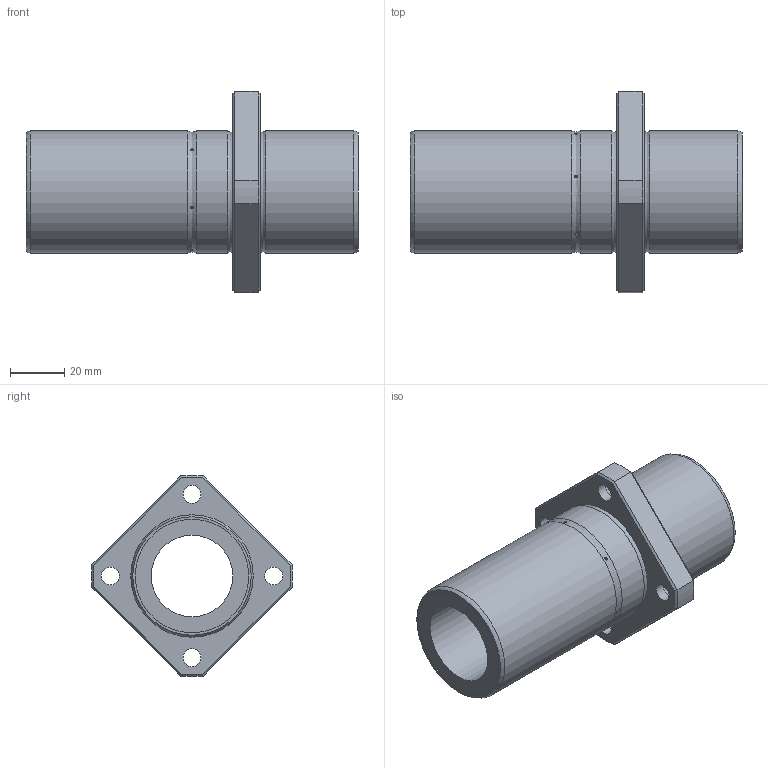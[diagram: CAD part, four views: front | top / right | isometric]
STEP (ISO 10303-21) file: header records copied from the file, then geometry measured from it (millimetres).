
FILE_DESCRIPTION((''),'2;1');
FILE_NAME('D:\製品 (図面)\カタログ用3D\リニアベアリング関連\STEP形式\LFDK-OH\LFDK30-OH.stp','2010-06-03T09:42:07',('Tsuchiya'),(''),'Autodesk Inventor 10','Autodesk Inventor 10','');
FILE_SCHEMA(('AUTOMOTIVE_DESIGN { 1 0 10303 214 1 1 1 1 }'));
Length unit declared in the file: millimetre
Products named in the file (1): LFDK30-OH
Bounding box: 122 x 73.95 x 73.95 mm (x, y, z)
Volume: 121176.4 mm3; surface area: 35451.6 mm2
Topology: 1 solids, 1 shells, 65 faces, 131 edges, 82 vertices
Faces by surface type: bspline 21, plane 18, cylinder 16, cone 8, torus 2
Full cylindrical faces by diameter (mm): 30 x1, 41.7 x2, 45 x3
Entity records: 2373 total; most frequent: CARTESIAN_POINT 1202, DIRECTION 210, ORIENTED_EDGE 200, EDGE_LOOP 114, EDGE_CURVE 100, AXIS2_PLACEMENT_3D 93, VERTEX_POINT 76, FACE_OUTER_BOUND 65
